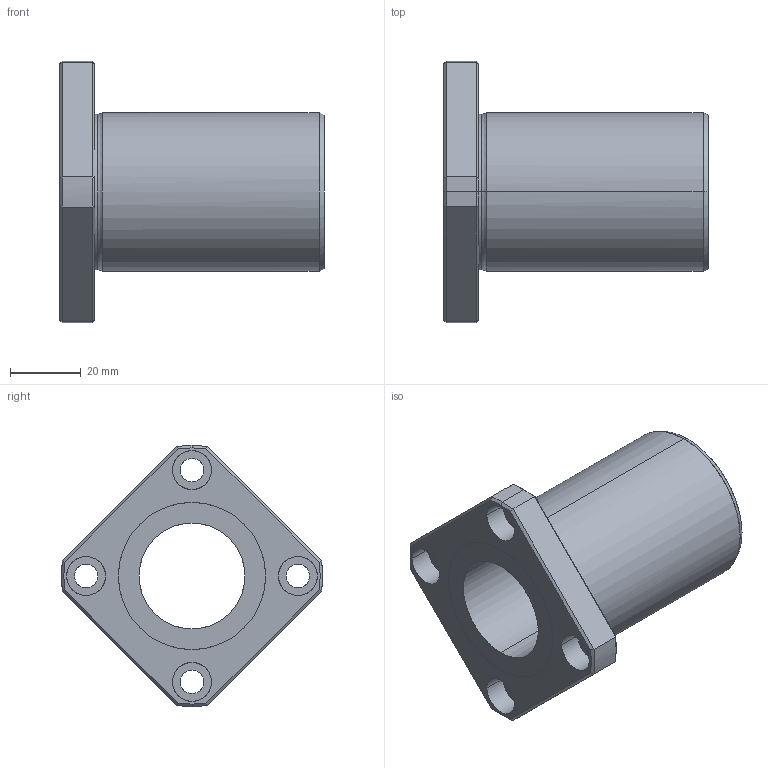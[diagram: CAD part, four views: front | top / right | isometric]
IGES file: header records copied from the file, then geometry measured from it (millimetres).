
Global section: file name: No Iges File Name specified; native system: AutoDesk Inventor R10; preprocessor: AutoDesk Inventor Iges Exporter R10; author: No Author specified; organization: No Organization specified; date: 20101216.154848; units: millimetre
Bounding box: 75 x 73.99 x 74 mm (x, y, z)
Surface area: 24346 mm2 (no closed solid volume)
Topology: 0 solids, 0 shells, 69 faces, 416 edges, 416 vertices
Faces by surface type: bspline 69
